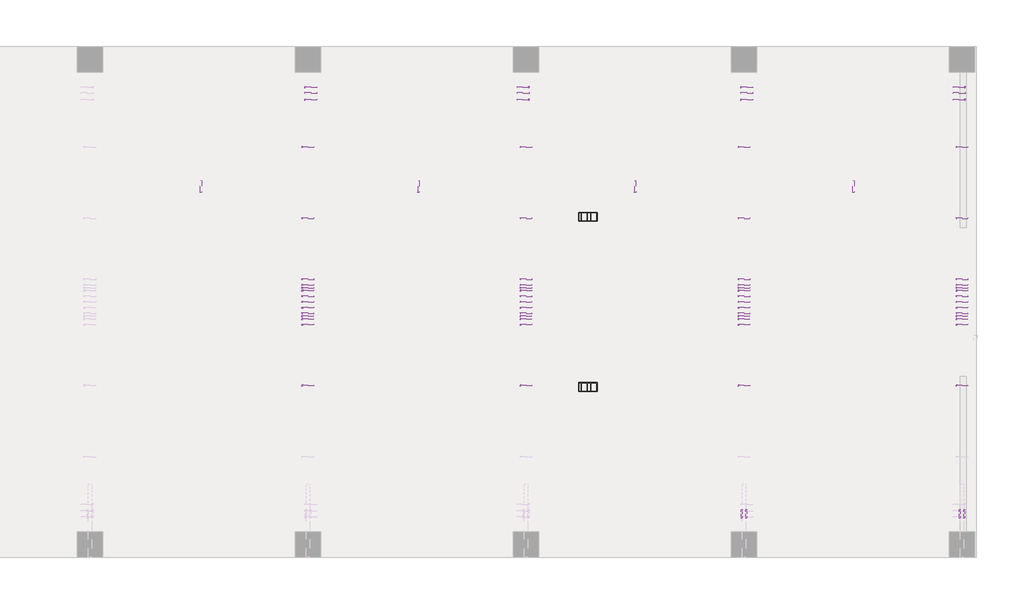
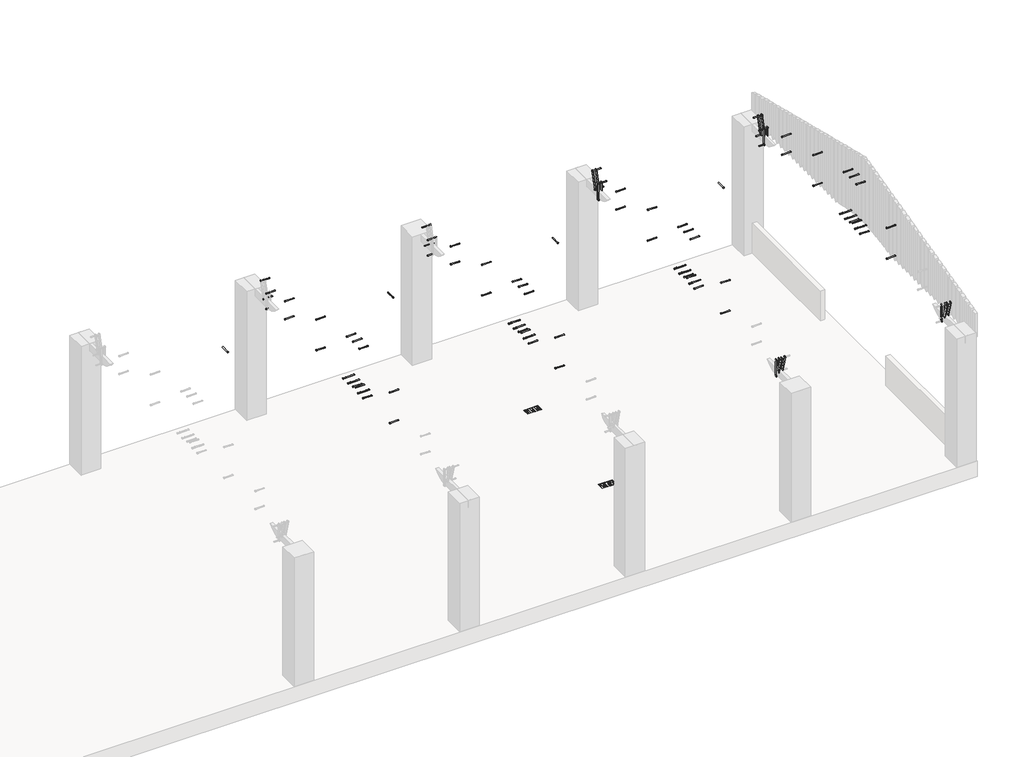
# One storey, part 3 of 3: 98 proxies.
"""IFC4 building model written with IfcOpenShell, lengths in millimetres."""

from ifc_helpers import new_model, si_unit, origin, place, context, project, spatial, transform, mapped, element, save
from components import generic_models_fae53533, generic_models_062e112d, generic_models_19469829, generic_models_2b8c0364, generic_models_28ea765f, generic_models_129ac0f9

model = new_model("IFC4")

# Units and contexts
model_context = context("Model", 3, world=origin())
ifc_project = project(units=[si_unit("LENGTHUNIT", "METRE", prefix="MILLI")], contexts=[model_context])

# Site, building, storey
site = spatial("IfcSite", under=ifc_project)
building = spatial("IfcBuilding", under=site)
storey = spatial("IfcBuildingStorey", under=building, Name="Nível 1", Elevation=0.0)

# Proxies
placement = place(None, origin())
generic_models_shape = generic_models_fae53533(model_context)
element("IfcBuildingElementProxy", 1, Name="grelha p chuva : grelha p chuva", ObjectType="grelha p chuva : grelha p chuva", at=placement, inside=storey, context=model_context, shape_type="MappedRepresentation", body=[
    mapped(generic_models_shape, transform((6643.4472467, 521.9571498, 0.0), x_axis=(0.0, 1.0, 0.0), y_axis=(-1.0, 0.0, 0.0), z_axis=(0.0, 0.0, 1.0))),
])
element("IfcBuildingElementProxy", 2, Name="grelha p chuva : grelha p chuva", ObjectType="grelha p chuva : grelha p chuva", at=placement, inside=storey, context=model_context, shape_type="MappedRepresentation", body=[
    mapped(generic_models_shape, transform((6643.4472467, 3375.2904832, 0.0), x_axis=(0.0, 1.0, 0.0), y_axis=(-1.0, 0.0, 0.0), z_axis=(0.0, 0.0, 1.0))),
])
generic_models_2_shape = generic_models_062e112d(model_context)
element("IfcBuildingElementProxy", 3, Name="Modelos genéricos 290 : Modelos genéricos 278", ObjectType="Modelos genéricos 290 : Modelos genéricos 278", at=placement, inside=storey, context=model_context, shape_type="MappedRepresentation", body=[
    mapped(generic_models_2_shape, transform((0.0, 0.0, 0.0), x_axis=(1.0, 0.0, 0.0), y_axis=(0.0, 1.0, 0.0), z_axis=(0.0, 0.0, 1.0))),
])
generic_models_3_shape = generic_models_19469829(model_context)
element("IfcBuildingElementProxy", 4, Name="Modelos genéricos 291 : Modelos genéricos 278", ObjectType="Modelos genéricos 291 : Modelos genéricos 278", at=placement, inside=storey, context=model_context, shape_type="MappedRepresentation", body=[
    mapped(generic_models_3_shape, transform((0.0, 0.0, 0.0), x_axis=(1.0, 0.0, 0.0), y_axis=(0.0, 1.0, 0.0), z_axis=(0.0, 0.0, 1.0))),
])
generic_models_4_shape = generic_models_2b8c0364(model_context)
element("IfcBuildingElementProxy", 5, Name="Modelos genéricos 292 : Modelos genéricos 278", ObjectType="Modelos genéricos 292 : Modelos genéricos 278", at=placement, inside=storey, context=model_context, shape_type="MappedRepresentation", body=[
    mapped(generic_models_4_shape, transform((0.0, 0.0, 0.0), x_axis=(1.0, 0.0, 0.0), y_axis=(0.0, 1.0, 0.0), z_axis=(0.0, 0.0, 1.0))),
])
generic_models_5_shape = generic_models_28ea765f(model_context)
element("IfcBuildingElementProxy", 6, Name="Modelos genéricos 293 : Modelos genéricos 278", ObjectType="Modelos genéricos 293 : Modelos genéricos 278", at=placement, inside=storey, context=model_context, shape_type="MappedRepresentation", body=[
    mapped(generic_models_5_shape, transform((0.0, 0.0, 0.0), x_axis=(1.0, 0.0, 0.0), y_axis=(0.0, 1.0, 0.0), z_axis=(0.0, 0.0, 1.0))),
])
generic_models_6_shape = generic_models_129ac0f9(model_context)
element("IfcBuildingElementProxy", 7, Name="parafuso : parafuso", ObjectType="parafuso : parafuso", at=placement, inside=storey, context=model_context, shape_type="MappedRepresentation", body=[
    mapped(generic_models_6_shape, transform((1863.4472467, 1948.6238165, 4129.7515316), x_axis=(0.0, 1.0, 0.0), y_axis=(0.0, 0.0, -1.0), z_axis=(-1.0, 0.0, 0.0))),
])
element("IfcBuildingElementProxy", 8, Name="parafuso : parafuso", ObjectType="parafuso : parafuso", at=placement, inside=storey, context=model_context, shape_type="MappedRepresentation", body=[
    mapped(generic_models_6_shape, transform((1863.4472467, 2183.6238165, 4104.7515316), x_axis=(0.0, 1.0, 0.0), y_axis=(0.0, 0.0, -1.0), z_axis=(-1.0, 0.0, 0.0))),
])
element("IfcBuildingElementProxy", 9, Name="parafuso : parafuso", ObjectType="parafuso : parafuso", at=placement, inside=storey, context=model_context, shape_type="MappedRepresentation", body=[
    mapped(generic_models_6_shape, transform((1863.4472467, 1713.6238165, 4104.7515316), x_axis=(0.0, 1.0, 0.0), y_axis=(0.0, 0.0, -1.0), z_axis=(-1.0, 0.0, 0.0))),
])
element("IfcBuildingElementProxy", 10, Name="parafuso : parafuso", ObjectType="parafuso : parafuso", at=placement, inside=storey, context=model_context, shape_type="MappedRepresentation", body=[
    mapped(generic_models_6_shape, transform((1863.4472467, 1948.6238165, 3080.0), x_axis=(0.0, 1.0, 0.0), y_axis=(0.0, 0.0, -1.0), z_axis=(-1.0, 0.0, 0.0))),
])
element("IfcBuildingElementProxy", 11, Name="parafuso : parafuso", ObjectType="parafuso : parafuso", at=placement, inside=storey, context=model_context, shape_type="MappedRepresentation", body=[
    mapped(generic_models_6_shape, transform((1863.4472467, 2043.6238165, 3120.0), x_axis=(0.0, 1.0, 0.0), y_axis=(0.0, 0.0, -1.0), z_axis=(-1.0, 0.0, 0.0))),
])
element("IfcBuildingElementProxy", 12, Name="parafuso : parafuso", ObjectType="parafuso : parafuso", at=placement, inside=storey, context=model_context, shape_type="MappedRepresentation", body=[
    mapped(generic_models_6_shape, transform((1863.4472467, 2138.6238165, 3040.0), x_axis=(0.0, 1.0, 0.0), y_axis=(0.0, 0.0, -1.0), z_axis=(-1.0, 0.0, 0.0))),
])
element("IfcBuildingElementProxy", 13, Name="parafuso : parafuso", ObjectType="parafuso : parafuso", at=placement, inside=storey, context=model_context, shape_type="MappedRepresentation", body=[
    mapped(generic_models_6_shape, transform((1863.4472467, 2233.6238165, 3120.0), x_axis=(0.0, 1.0, 0.0), y_axis=(0.0, 0.0, -1.0), z_axis=(-1.0, 0.0, 0.0))),
])
element("IfcBuildingElementProxy", 14, Name="parafuso : parafuso", ObjectType="parafuso : parafuso", at=placement, inside=storey, context=model_context, shape_type="MappedRepresentation", body=[
    mapped(generic_models_6_shape, transform((1863.4472467, 2328.6238165, 3040.0), x_axis=(0.0, 1.0, 0.0), y_axis=(0.0, 0.0, -1.0), z_axis=(-1.0, 0.0, 0.0))),
])
element("IfcBuildingElementProxy", 15, Name="parafuso : parafuso", ObjectType="parafuso : parafuso", at=placement, inside=storey, context=model_context, shape_type="MappedRepresentation", body=[
    mapped(generic_models_6_shape, transform((1863.4472467, 1853.6238165, 3120.0), x_axis=(0.0, 1.0, 0.0), y_axis=(0.0, 0.0, -1.0), z_axis=(-1.0, 0.0, 0.0))),
])
element("IfcBuildingElementProxy", 16, Name="parafuso : parafuso", ObjectType="parafuso : parafuso", at=placement, inside=storey, context=model_context, shape_type="MappedRepresentation", body=[
    mapped(generic_models_6_shape, transform((1863.4472467, 1758.6238165, 3040.0), x_axis=(0.0, 1.0, 0.0), y_axis=(0.0, 0.0, -1.0), z_axis=(-1.0, 0.0, 0.0))),
])
element("IfcBuildingElementProxy", 17, Name="parafuso : parafuso", ObjectType="parafuso : parafuso", at=placement, inside=storey, context=model_context, shape_type="MappedRepresentation", body=[
    mapped(generic_models_6_shape, transform((1863.4472467, 1663.6238165, 3120.0), x_axis=(0.0, 1.0, 0.0), y_axis=(0.0, 0.0, -1.0), z_axis=(-1.0, 0.0, 0.0))),
])
element("IfcBuildingElementProxy", 18, Name="parafuso : parafuso", ObjectType="parafuso : parafuso", at=placement, inside=storey, context=model_context, shape_type="MappedRepresentation", body=[
    mapped(generic_models_6_shape, transform((1863.4472467, 1568.6238165, 3040.0), x_axis=(0.0, 1.0, 0.0), y_axis=(0.0, 0.0, -1.0), z_axis=(-1.0, 0.0, 0.0))),
])
element("IfcBuildingElementProxy", 19, Name="parafuso : parafuso", ObjectType="parafuso : parafuso", at=placement, inside=storey, context=model_context, shape_type="MappedRepresentation", body=[
    mapped(generic_models_6_shape, transform((1863.4472467, 548.6238165, 3795.6961975), x_axis=(0.0, 1.0, 0.0), y_axis=(0.0, 0.0, -1.0), z_axis=(-1.0, 0.0, 0.0))),
])
element("IfcBuildingElementProxy", 20, Name="parafuso : parafuso", ObjectType="parafuso : parafuso", at=placement, inside=storey, context=model_context, shape_type="MappedRepresentation", body=[
    mapped(generic_models_6_shape, transform((1863.4472467, 548.6238165, 3080.0), x_axis=(0.0, 1.0, 0.0), y_axis=(0.0, 0.0, -1.0), z_axis=(-1.0, 0.0, 0.0))),
])
element("IfcBuildingElementProxy", 21, Name="parafuso : parafuso", ObjectType="parafuso : parafuso", at=placement, inside=storey, context=model_context, shape_type="MappedRepresentation", body=[
    mapped(generic_models_6_shape, transform((5513.4472467, 1948.6238165, 4129.7515316), x_axis=(0.0, 1.0, 0.0), y_axis=(0.0, 0.0, -1.0), z_axis=(-1.0, 0.0, 0.0))),
])
element("IfcBuildingElementProxy", 22, Name="parafuso : parafuso", ObjectType="parafuso : parafuso", at=placement, inside=storey, context=model_context, shape_type="MappedRepresentation", body=[
    mapped(generic_models_6_shape, transform((5513.4472467, 2183.6238165, 4104.7515316), x_axis=(0.0, 1.0, 0.0), y_axis=(0.0, 0.0, -1.0), z_axis=(-1.0, 0.0, 0.0))),
])
element("IfcBuildingElementProxy", 23, Name="parafuso : parafuso", ObjectType="parafuso : parafuso", at=placement, inside=storey, context=model_context, shape_type="MappedRepresentation", body=[
    mapped(generic_models_6_shape, transform((5513.4472467, 1713.6238165, 4104.7515316), x_axis=(0.0, 1.0, 0.0), y_axis=(0.0, 0.0, -1.0), z_axis=(-1.0, 0.0, 0.0))),
])
element("IfcBuildingElementProxy", 24, Name="parafuso : parafuso", ObjectType="parafuso : parafuso", at=placement, inside=storey, context=model_context, shape_type="MappedRepresentation", body=[
    mapped(generic_models_6_shape, transform((5513.4472467, 1948.6238165, 3080.0), x_axis=(0.0, 1.0, 0.0), y_axis=(0.0, 0.0, -1.0), z_axis=(-1.0, 0.0, 0.0))),
])
element("IfcBuildingElementProxy", 25, Name="parafuso : parafuso", ObjectType="parafuso : parafuso", at=placement, inside=storey, context=model_context, shape_type="MappedRepresentation", body=[
    mapped(generic_models_6_shape, transform((5513.4472467, 2043.6238165, 3120.0), x_axis=(0.0, 1.0, 0.0), y_axis=(0.0, 0.0, -1.0), z_axis=(-1.0, 0.0, 0.0))),
])
element("IfcBuildingElementProxy", 26, Name="parafuso : parafuso", ObjectType="parafuso : parafuso", at=placement, inside=storey, context=model_context, shape_type="MappedRepresentation", body=[
    mapped(generic_models_6_shape, transform((5513.4472467, 2138.6238165, 3040.0), x_axis=(0.0, 1.0, 0.0), y_axis=(0.0, 0.0, -1.0), z_axis=(-1.0, 0.0, 0.0))),
])
element("IfcBuildingElementProxy", 27, Name="parafuso : parafuso", ObjectType="parafuso : parafuso", at=placement, inside=storey, context=model_context, shape_type="MappedRepresentation", body=[
    mapped(generic_models_6_shape, transform((5513.4472467, 2233.6238165, 3120.0), x_axis=(0.0, 1.0, 0.0), y_axis=(0.0, 0.0, -1.0), z_axis=(-1.0, 0.0, 0.0))),
])
element("IfcBuildingElementProxy", 28, Name="parafuso : parafuso", ObjectType="parafuso : parafuso", at=placement, inside=storey, context=model_context, shape_type="MappedRepresentation", body=[
    mapped(generic_models_6_shape, transform((5513.4472467, 2328.6238165, 3040.0), x_axis=(0.0, 1.0, 0.0), y_axis=(0.0, 0.0, -1.0), z_axis=(-1.0, 0.0, 0.0))),
])
element("IfcBuildingElementProxy", 29, Name="parafuso : parafuso", ObjectType="parafuso : parafuso", at=placement, inside=storey, context=model_context, shape_type="MappedRepresentation", body=[
    mapped(generic_models_6_shape, transform((5513.4472467, 1853.6238165, 3120.0), x_axis=(0.0, 1.0, 0.0), y_axis=(0.0, 0.0, -1.0), z_axis=(-1.0, 0.0, 0.0))),
])
element("IfcBuildingElementProxy", 30, Name="parafuso : parafuso", ObjectType="parafuso : parafuso", at=placement, inside=storey, context=model_context, shape_type="MappedRepresentation", body=[
    mapped(generic_models_6_shape, transform((5513.4472467, 1758.6238165, 3040.0), x_axis=(0.0, 1.0, 0.0), y_axis=(0.0, 0.0, -1.0), z_axis=(-1.0, 0.0, 0.0))),
])
element("IfcBuildingElementProxy", 31, Name="parafuso : parafuso", ObjectType="parafuso : parafuso", at=placement, inside=storey, context=model_context, shape_type="MappedRepresentation", body=[
    mapped(generic_models_6_shape, transform((5513.4472467, 1663.6238165, 3120.0), x_axis=(0.0, 1.0, 0.0), y_axis=(0.0, 0.0, -1.0), z_axis=(-1.0, 0.0, 0.0))),
])
element("IfcBuildingElementProxy", 32, Name="parafuso : parafuso", ObjectType="parafuso : parafuso", at=placement, inside=storey, context=model_context, shape_type="MappedRepresentation", body=[
    mapped(generic_models_6_shape, transform((5513.4472467, 1568.6238165, 3040.0), x_axis=(0.0, 1.0, 0.0), y_axis=(0.0, 0.0, -1.0), z_axis=(-1.0, 0.0, 0.0))),
])
element("IfcBuildingElementProxy", 33, Name="parafuso : parafuso", ObjectType="parafuso : parafuso", at=placement, inside=storey, context=model_context, shape_type="MappedRepresentation", body=[
    mapped(generic_models_6_shape, transform((5513.4472467, 548.6238165, 3795.6961975), x_axis=(0.0, 1.0, 0.0), y_axis=(0.0, 0.0, -1.0), z_axis=(-1.0, 0.0, 0.0))),
])
element("IfcBuildingElementProxy", 34, Name="parafuso : parafuso", ObjectType="parafuso : parafuso", at=placement, inside=storey, context=model_context, shape_type="MappedRepresentation", body=[
    mapped(generic_models_6_shape, transform((5513.4472467, 548.6238165, 3080.0), x_axis=(0.0, 1.0, 0.0), y_axis=(0.0, 0.0, -1.0), z_axis=(-1.0, 0.0, 0.0))),
])
element("IfcBuildingElementProxy", 35, Name="parafuso : parafuso", ObjectType="parafuso : parafuso", at=placement, inside=storey, context=model_context, shape_type="MappedRepresentation", body=[
    mapped(generic_models_6_shape, transform((9163.4472467, 1948.6238165, 4129.7515316), x_axis=(0.0, 1.0, 0.0), y_axis=(0.0, 0.0, -1.0), z_axis=(-1.0, 0.0, 0.0))),
])
element("IfcBuildingElementProxy", 36, Name="parafuso : parafuso", ObjectType="parafuso : parafuso", at=placement, inside=storey, context=model_context, shape_type="MappedRepresentation", body=[
    mapped(generic_models_6_shape, transform((9163.4472467, 2183.6238165, 4104.7515316), x_axis=(0.0, 1.0, 0.0), y_axis=(0.0, 0.0, -1.0), z_axis=(-1.0, 0.0, 0.0))),
])
element("IfcBuildingElementProxy", 37, Name="parafuso : parafuso", ObjectType="parafuso : parafuso", at=placement, inside=storey, context=model_context, shape_type="MappedRepresentation", body=[
    mapped(generic_models_6_shape, transform((9163.4472467, 1713.6238165, 4104.7515316), x_axis=(0.0, 1.0, 0.0), y_axis=(0.0, 0.0, -1.0), z_axis=(-1.0, 0.0, 0.0))),
])
element("IfcBuildingElementProxy", 38, Name="parafuso : parafuso", ObjectType="parafuso : parafuso", at=placement, inside=storey, context=model_context, shape_type="MappedRepresentation", body=[
    mapped(generic_models_6_shape, transform((9163.4472467, 1948.6238165, 3080.0), x_axis=(0.0, 1.0, 0.0), y_axis=(0.0, 0.0, -1.0), z_axis=(-1.0, 0.0, 0.0))),
])
element("IfcBuildingElementProxy", 39, Name="parafuso : parafuso", ObjectType="parafuso : parafuso", at=placement, inside=storey, context=model_context, shape_type="MappedRepresentation", body=[
    mapped(generic_models_6_shape, transform((9163.4472467, 2043.6238165, 3120.0), x_axis=(0.0, 1.0, 0.0), y_axis=(0.0, 0.0, -1.0), z_axis=(-1.0, 0.0, 0.0))),
])
element("IfcBuildingElementProxy", 40, Name="parafuso : parafuso", ObjectType="parafuso : parafuso", at=placement, inside=storey, context=model_context, shape_type="MappedRepresentation", body=[
    mapped(generic_models_6_shape, transform((9163.4472467, 2138.6238165, 3040.0), x_axis=(0.0, 1.0, 0.0), y_axis=(0.0, 0.0, -1.0), z_axis=(-1.0, 0.0, 0.0))),
])
element("IfcBuildingElementProxy", 41, Name="parafuso : parafuso", ObjectType="parafuso : parafuso", at=placement, inside=storey, context=model_context, shape_type="MappedRepresentation", body=[
    mapped(generic_models_6_shape, transform((9163.4472467, 2233.6238165, 3120.0), x_axis=(0.0, 1.0, 0.0), y_axis=(0.0, 0.0, -1.0), z_axis=(-1.0, 0.0, 0.0))),
])
element("IfcBuildingElementProxy", 42, Name="parafuso : parafuso", ObjectType="parafuso : parafuso", at=placement, inside=storey, context=model_context, shape_type="MappedRepresentation", body=[
    mapped(generic_models_6_shape, transform((9163.4472467, 2328.6238165, 3040.0), x_axis=(0.0, 1.0, 0.0), y_axis=(0.0, 0.0, -1.0), z_axis=(-1.0, 0.0, 0.0))),
])
element("IfcBuildingElementProxy", 43, Name="parafuso : parafuso", ObjectType="parafuso : parafuso", at=placement, inside=storey, context=model_context, shape_type="MappedRepresentation", body=[
    mapped(generic_models_6_shape, transform((9163.4472467, 1853.6238165, 3120.0), x_axis=(0.0, 1.0, 0.0), y_axis=(0.0, 0.0, -1.0), z_axis=(-1.0, 0.0, 0.0))),
])
element("IfcBuildingElementProxy", 44, Name="parafuso : parafuso", ObjectType="parafuso : parafuso", at=placement, inside=storey, context=model_context, shape_type="MappedRepresentation", body=[
    mapped(generic_models_6_shape, transform((9163.4472467, 1758.6238165, 3040.0), x_axis=(0.0, 1.0, 0.0), y_axis=(0.0, 0.0, -1.0), z_axis=(-1.0, 0.0, 0.0))),
])
element("IfcBuildingElementProxy", 45, Name="parafuso : parafuso", ObjectType="parafuso : parafuso", at=placement, inside=storey, context=model_context, shape_type="MappedRepresentation", body=[
    mapped(generic_models_6_shape, transform((9163.4472467, 1663.6238165, 3120.0), x_axis=(0.0, 1.0, 0.0), y_axis=(0.0, 0.0, -1.0), z_axis=(-1.0, 0.0, 0.0))),
])
element("IfcBuildingElementProxy", 46, Name="parafuso : parafuso", ObjectType="parafuso : parafuso", at=placement, inside=storey, context=model_context, shape_type="MappedRepresentation", body=[
    mapped(generic_models_6_shape, transform((9163.4472467, 1568.6238165, 3040.0), x_axis=(0.0, 1.0, 0.0), y_axis=(0.0, 0.0, -1.0), z_axis=(-1.0, 0.0, 0.0))),
])
element("IfcBuildingElementProxy", 47, Name="parafuso : parafuso", ObjectType="parafuso : parafuso", at=placement, inside=storey, context=model_context, shape_type="MappedRepresentation", body=[
    mapped(generic_models_6_shape, transform((9163.4472467, 548.6238165, 3795.6961975), x_axis=(0.0, 1.0, 0.0), y_axis=(0.0, 0.0, -1.0), z_axis=(-1.0, 0.0, 0.0))),
])
element("IfcBuildingElementProxy", 48, Name="parafuso : parafuso", ObjectType="parafuso : parafuso", at=placement, inside=storey, context=model_context, shape_type="MappedRepresentation", body=[
    mapped(generic_models_6_shape, transform((9163.4472467, 548.6238165, 3080.0), x_axis=(0.0, 1.0, 0.0), y_axis=(0.0, 0.0, -1.0), z_axis=(-1.0, 0.0, 0.0))),
])
element("IfcBuildingElementProxy", 49, Name="parafuso : parafuso", ObjectType="parafuso : parafuso", at=placement, inside=storey, context=model_context, shape_type="MappedRepresentation", body=[
    mapped(generic_models_6_shape, transform((12813.4472467, 1948.6238165, 4129.7515316), x_axis=(0.0, 1.0, 0.0), y_axis=(0.0, 0.0, -1.0), z_axis=(-1.0, 0.0, 0.0))),
])
element("IfcBuildingElementProxy", 50, Name="parafuso : parafuso", ObjectType="parafuso : parafuso", at=placement, inside=storey, context=model_context, shape_type="MappedRepresentation", body=[
    mapped(generic_models_6_shape, transform((12813.4472467, 2183.6238165, 4104.7515316), x_axis=(0.0, 1.0, 0.0), y_axis=(0.0, 0.0, -1.0), z_axis=(-1.0, 0.0, 0.0))),
])
element("IfcBuildingElementProxy", 51, Name="parafuso : parafuso", ObjectType="parafuso : parafuso", at=placement, inside=storey, context=model_context, shape_type="MappedRepresentation", body=[
    mapped(generic_models_6_shape, transform((12813.4472467, 1713.6238165, 4104.7515316), x_axis=(0.0, 1.0, 0.0), y_axis=(0.0, 0.0, -1.0), z_axis=(-1.0, 0.0, 0.0))),
])
element("IfcBuildingElementProxy", 52, Name="parafuso : parafuso", ObjectType="parafuso : parafuso", at=placement, inside=storey, context=model_context, shape_type="MappedRepresentation", body=[
    mapped(generic_models_6_shape, transform((12813.4472467, 1948.6238165, 3080.0), x_axis=(0.0, 1.0, 0.0), y_axis=(0.0, 0.0, -1.0), z_axis=(-1.0, 0.0, 0.0))),
])
element("IfcBuildingElementProxy", 53, Name="parafuso : parafuso", ObjectType="parafuso : parafuso", at=placement, inside=storey, context=model_context, shape_type="MappedRepresentation", body=[
    mapped(generic_models_6_shape, transform((12813.4472467, 2043.6238165, 3120.0), x_axis=(0.0, 1.0, 0.0), y_axis=(0.0, 0.0, -1.0), z_axis=(-1.0, 0.0, 0.0))),
])
element("IfcBuildingElementProxy", 54, Name="parafuso : parafuso", ObjectType="parafuso : parafuso", at=placement, inside=storey, context=model_context, shape_type="MappedRepresentation", body=[
    mapped(generic_models_6_shape, transform((12813.4472467, 2138.6238165, 3040.0), x_axis=(0.0, 1.0, 0.0), y_axis=(0.0, 0.0, -1.0), z_axis=(-1.0, 0.0, 0.0))),
])
element("IfcBuildingElementProxy", 55, Name="parafuso : parafuso", ObjectType="parafuso : parafuso", at=placement, inside=storey, context=model_context, shape_type="MappedRepresentation", body=[
    mapped(generic_models_6_shape, transform((12813.4472467, 2233.6238165, 3120.0), x_axis=(0.0, 1.0, 0.0), y_axis=(0.0, 0.0, -1.0), z_axis=(-1.0, 0.0, 0.0))),
])
element("IfcBuildingElementProxy", 56, Name="parafuso : parafuso", ObjectType="parafuso : parafuso", at=placement, inside=storey, context=model_context, shape_type="MappedRepresentation", body=[
    mapped(generic_models_6_shape, transform((12813.4472467, 2328.6238165, 3040.0), x_axis=(0.0, 1.0, 0.0), y_axis=(0.0, 0.0, -1.0), z_axis=(-1.0, 0.0, 0.0))),
])
element("IfcBuildingElementProxy", 57, Name="parafuso : parafuso", ObjectType="parafuso : parafuso", at=placement, inside=storey, context=model_context, shape_type="MappedRepresentation", body=[
    mapped(generic_models_6_shape, transform((12813.4472467, 1853.6238165, 3120.0), x_axis=(0.0, 1.0, 0.0), y_axis=(0.0, 0.0, -1.0), z_axis=(-1.0, 0.0, 0.0))),
])
element("IfcBuildingElementProxy", 58, Name="parafuso : parafuso", ObjectType="parafuso : parafuso", at=placement, inside=storey, context=model_context, shape_type="MappedRepresentation", body=[
    mapped(generic_models_6_shape, transform((12813.4472467, 1758.6238165, 3040.0), x_axis=(0.0, 1.0, 0.0), y_axis=(0.0, 0.0, -1.0), z_axis=(-1.0, 0.0, 0.0))),
])
element("IfcBuildingElementProxy", 59, Name="parafuso : parafuso", ObjectType="parafuso : parafuso", at=placement, inside=storey, context=model_context, shape_type="MappedRepresentation", body=[
    mapped(generic_models_6_shape, transform((12813.4472467, 1663.6238165, 3120.0), x_axis=(0.0, 1.0, 0.0), y_axis=(0.0, 0.0, -1.0), z_axis=(-1.0, 0.0, 0.0))),
])
element("IfcBuildingElementProxy", 60, Name="parafuso : parafuso", ObjectType="parafuso : parafuso", at=placement, inside=storey, context=model_context, shape_type="MappedRepresentation", body=[
    mapped(generic_models_6_shape, transform((12813.4472467, 1568.6238165, 3040.0), x_axis=(0.0, 1.0, 0.0), y_axis=(0.0, 0.0, -1.0), z_axis=(-1.0, 0.0, 0.0))),
])
element("IfcBuildingElementProxy", 61, Name="parafuso : parafuso", ObjectType="parafuso : parafuso", at=placement, inside=storey, context=model_context, shape_type="MappedRepresentation", body=[
    mapped(generic_models_6_shape, transform((12813.4472467, 548.6238165, 3795.6961975), x_axis=(0.0, 1.0, 0.0), y_axis=(0.0, 0.0, -1.0), z_axis=(-1.0, 0.0, 0.0))),
])
element("IfcBuildingElementProxy", 62, Name="parafuso : parafuso", ObjectType="parafuso : parafuso", at=placement, inside=storey, context=model_context, shape_type="MappedRepresentation", body=[
    mapped(generic_models_6_shape, transform((12813.4472467, 548.6238165, 3080.0), x_axis=(0.0, 1.0, 0.0), y_axis=(0.0, 0.0, -1.0), z_axis=(-1.0, 0.0, 0.0))),
])
element("IfcBuildingElementProxy", 63, Name="parafuso : parafuso", ObjectType="parafuso : parafuso", at=placement, inside=storey, context=model_context, shape_type="MappedRepresentation", body=[
    mapped(generic_models_6_shape, transform((1910.7580929, 5338.6238165, 2820.0), x_axis=(0.0, 1.0, 0.0), y_axis=(0.0, 0.0, -1.0), z_axis=(-1.0, 0.0, 0.0))),
])
element("IfcBuildingElementProxy", 64, Name="parafuso : parafuso", ObjectType="parafuso : parafuso", at=placement, inside=storey, context=model_context, shape_type="MappedRepresentation", body=[
    mapped(generic_models_6_shape, transform((1910.7580929, 5338.6238165, 3180.0), x_axis=(0.0, 1.0, 0.0), y_axis=(0.0, 0.0, -1.0), z_axis=(-1.0, 0.0, 0.0))),
])
element("IfcBuildingElementProxy", 65, Name="parafuso : parafuso", ObjectType="parafuso : parafuso", at=placement, inside=storey, context=model_context, shape_type="MappedRepresentation", body=[
    mapped(generic_models_6_shape, transform((1910.7580929, 5547.636896, 3347.7358864), x_axis=(0.0, 1.0, 0.0), y_axis=(0.0, 0.0, -1.0), z_axis=(-1.0, 0.0, 0.0))),
])
element("IfcBuildingElementProxy", 66, Name="parafuso : parafuso", ObjectType="parafuso : parafuso", at=placement, inside=storey, context=model_context, shape_type="MappedRepresentation", body=[
    mapped(generic_models_6_shape, transform((1910.7580929, 5449.2856589, 2980.6840724), x_axis=(0.0, 1.0, 0.0), y_axis=(0.0, 0.0, -1.0), z_axis=(-1.0, 0.0, 0.0))),
])
element("IfcBuildingElementProxy", 67, Name="parafuso : parafuso", ObjectType="parafuso : parafuso", at=placement, inside=storey, context=model_context, shape_type="MappedRepresentation", body=[
    mapped(generic_models_6_shape, transform((9210.7580929, 5338.6238165, 2820.0), x_axis=(0.0, 1.0, 0.0), y_axis=(0.0, 0.0, -1.0), z_axis=(-1.0, 0.0, 0.0))),
])
element("IfcBuildingElementProxy", 68, Name="parafuso : parafuso", ObjectType="parafuso : parafuso", at=placement, inside=storey, context=model_context, shape_type="MappedRepresentation", body=[
    mapped(generic_models_6_shape, transform((9210.7580929, 5338.6238165, 3180.0), x_axis=(0.0, 1.0, 0.0), y_axis=(0.0, 0.0, -1.0), z_axis=(-1.0, 0.0, 0.0))),
])
element("IfcBuildingElementProxy", 69, Name="parafuso : parafuso", ObjectType="parafuso : parafuso", at=placement, inside=storey, context=model_context, shape_type="MappedRepresentation", body=[
    mapped(generic_models_6_shape, transform((9210.7580929, 5547.636896, 3347.7358864), x_axis=(0.0, 1.0, 0.0), y_axis=(0.0, 0.0, -1.0), z_axis=(-1.0, 0.0, 0.0))),
])
element("IfcBuildingElementProxy", 70, Name="parafuso : parafuso", ObjectType="parafuso : parafuso", at=placement, inside=storey, context=model_context, shape_type="MappedRepresentation", body=[
    mapped(generic_models_6_shape, transform((9210.7580929, 5449.2856589, 2980.6840724), x_axis=(0.0, 1.0, 0.0), y_axis=(0.0, 0.0, -1.0), z_axis=(-1.0, 0.0, 0.0))),
])
element("IfcBuildingElementProxy", 71, Name="parafuso : parafuso", ObjectType="parafuso : parafuso", at=placement, inside=storey, context=model_context, shape_type="MappedRepresentation", body=[
    mapped(generic_models_6_shape, transform((161.4165088, 3793.6238165, 3362.6833564), x_axis=(-0.9863131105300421, 0.0, -0.16488313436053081), y_axis=(0.16488313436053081, 0.0, -0.9863131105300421), z_axis=(0.0, -1.0, 0.0))),
])
element("IfcBuildingElementProxy", 72, Name="parafuso : parafuso", ObjectType="parafuso : parafuso", at=placement, inside=storey, context=model_context, shape_type="MappedRepresentation", body=[
    mapped(generic_models_6_shape, transform((3805.513584, 3793.6238165, 3362.6833564), x_axis=(-0.9863131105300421, 0.0, -0.16488313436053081), y_axis=(0.16488313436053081, 0.0, -0.9863131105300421), z_axis=(0.0, -1.0, 0.0))),
])
element("IfcBuildingElementProxy", 73, Name="parafuso : parafuso", ObjectType="parafuso : parafuso", at=placement, inside=storey, context=model_context, shape_type="MappedRepresentation", body=[
    mapped(generic_models_6_shape, transform((7432.1045495, 3793.6238165, 3363.0972868), x_axis=(-0.9863131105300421, 0.0, -0.16488313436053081), y_axis=(0.16488313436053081, 0.0, -0.9863131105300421), z_axis=(0.0, -1.0, 0.0))),
])
element("IfcBuildingElementProxy", 74, Name="parafuso : parafuso", ObjectType="parafuso : parafuso", at=placement, inside=storey, context=model_context, shape_type="MappedRepresentation", body=[
    mapped(generic_models_6_shape, transform((11087.5421414, 3793.6238165, 3368.4106209), x_axis=(-0.9863131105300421, 0.0, -0.16488313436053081), y_axis=(0.16488313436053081, 0.0, -0.9863131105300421), z_axis=(0.0, -1.0, 0.0))),
])
element("IfcBuildingElementProxy", 75, Name="parafuso : parafuso", ObjectType="parafuso : parafuso", at=placement, inside=storey, context=model_context, shape_type="MappedRepresentation", body=[
    mapped(generic_models_6_shape, transform((1863.4472467, 3348.6238165, 3795.6961975), x_axis=(0.0, -1.0, 0.0), y_axis=(0.0, 0.0, 1.0), z_axis=(-1.0, 0.0, 0.0))),
])
element("IfcBuildingElementProxy", 76, Name="parafuso : parafuso", ObjectType="parafuso : parafuso", at=placement, inside=storey, context=model_context, shape_type="MappedRepresentation", body=[
    mapped(generic_models_6_shape, transform((1863.4472467, 4543.6238165, 3497.7492341), x_axis=(0.0, -1.0, 0.0), y_axis=(0.0, 0.0, 1.0), z_axis=(-1.0, 0.0, 0.0))),
])
element("IfcBuildingElementProxy", 77, Name="parafuso : parafuso", ObjectType="parafuso : parafuso", at=placement, inside=storey, context=model_context, shape_type="MappedRepresentation", body=[
    mapped(generic_models_6_shape, transform((1863.4472467, 4543.6238165, 3080.0), x_axis=(0.0, -1.0, 0.0), y_axis=(0.0, 0.0, 1.0), z_axis=(-1.0, 0.0, 0.0))),
])
element("IfcBuildingElementProxy", 78, Name="parafuso : parafuso", ObjectType="parafuso : parafuso", at=placement, inside=storey, context=model_context, shape_type="MappedRepresentation", body=[
    mapped(generic_models_6_shape, transform((1863.4472467, 3348.6238165, 3080.0), x_axis=(0.0, -1.0, 0.0), y_axis=(0.0, 0.0, 1.0), z_axis=(-1.0, 0.0, 0.0))),
])
element("IfcBuildingElementProxy", 79, Name="parafuso : parafuso", ObjectType="parafuso : parafuso", at=placement, inside=storey, context=model_context, shape_type="MappedRepresentation", body=[
    mapped(generic_models_6_shape, transform((5513.4472467, 3348.6238165, 3795.6961975), x_axis=(0.0, -1.0, 0.0), y_axis=(0.0, 0.0, 1.0), z_axis=(-1.0, 0.0, 0.0))),
])
element("IfcBuildingElementProxy", 80, Name="parafuso : parafuso", ObjectType="parafuso : parafuso", at=placement, inside=storey, context=model_context, shape_type="MappedRepresentation", body=[
    mapped(generic_models_6_shape, transform((5513.4472467, 4543.6238165, 3497.7492341), x_axis=(0.0, -1.0, 0.0), y_axis=(0.0, 0.0, 1.0), z_axis=(-1.0, 0.0, 0.0))),
])
element("IfcBuildingElementProxy", 81, Name="parafuso : parafuso", ObjectType="parafuso : parafuso", at=placement, inside=storey, context=model_context, shape_type="MappedRepresentation", body=[
    mapped(generic_models_6_shape, transform((5513.4472467, 4543.6238165, 3080.0), x_axis=(0.0, -1.0, 0.0), y_axis=(0.0, 0.0, 1.0), z_axis=(-1.0, 0.0, 0.0))),
])
element("IfcBuildingElementProxy", 82, Name="parafuso : parafuso", ObjectType="parafuso : parafuso", at=placement, inside=storey, context=model_context, shape_type="MappedRepresentation", body=[
    mapped(generic_models_6_shape, transform((5513.4472467, 3348.6238165, 3080.0), x_axis=(0.0, -1.0, 0.0), y_axis=(0.0, 0.0, 1.0), z_axis=(-1.0, 0.0, 0.0))),
])
element("IfcBuildingElementProxy", 83, Name="parafuso : parafuso", ObjectType="parafuso : parafuso", at=placement, inside=storey, context=model_context, shape_type="MappedRepresentation", body=[
    mapped(generic_models_6_shape, transform((9163.4472467, 3348.6238165, 3795.6961975), x_axis=(0.0, -1.0, 0.0), y_axis=(0.0, 0.0, 1.0), z_axis=(-1.0, 0.0, 0.0))),
])
element("IfcBuildingElementProxy", 84, Name="parafuso : parafuso", ObjectType="parafuso : parafuso", at=placement, inside=storey, context=model_context, shape_type="MappedRepresentation", body=[
    mapped(generic_models_6_shape, transform((9163.4472467, 4543.6238165, 3497.7492341), x_axis=(0.0, -1.0, 0.0), y_axis=(0.0, 0.0, 1.0), z_axis=(-1.0, 0.0, 0.0))),
])
element("IfcBuildingElementProxy", 85, Name="parafuso : parafuso", ObjectType="parafuso : parafuso", at=placement, inside=storey, context=model_context, shape_type="MappedRepresentation", body=[
    mapped(generic_models_6_shape, transform((9163.4472467, 4543.6238165, 3080.0), x_axis=(0.0, -1.0, 0.0), y_axis=(0.0, 0.0, 1.0), z_axis=(-1.0, 0.0, 0.0))),
])
element("IfcBuildingElementProxy", 86, Name="parafuso : parafuso", ObjectType="parafuso : parafuso", at=placement, inside=storey, context=model_context, shape_type="MappedRepresentation", body=[
    mapped(generic_models_6_shape, transform((9163.4472467, 3348.6238165, 3080.0), x_axis=(0.0, -1.0, 0.0), y_axis=(0.0, 0.0, 1.0), z_axis=(-1.0, 0.0, 0.0))),
])
element("IfcBuildingElementProxy", 87, Name="parafuso : parafuso", ObjectType="parafuso : parafuso", at=placement, inside=storey, context=model_context, shape_type="MappedRepresentation", body=[
    mapped(generic_models_6_shape, transform((12813.4472467, 3348.6238165, 3795.6961975), x_axis=(0.0, -1.0, 0.0), y_axis=(0.0, 0.0, 1.0), z_axis=(-1.0, 0.0, 0.0))),
])
element("IfcBuildingElementProxy", 88, Name="parafuso : parafuso", ObjectType="parafuso : parafuso", at=placement, inside=storey, context=model_context, shape_type="MappedRepresentation", body=[
    mapped(generic_models_6_shape, transform((12813.4472467, 4543.6238165, 3497.7492341), x_axis=(0.0, -1.0, 0.0), y_axis=(0.0, 0.0, 1.0), z_axis=(-1.0, 0.0, 0.0))),
])
element("IfcBuildingElementProxy", 89, Name="parafuso : parafuso", ObjectType="parafuso : parafuso", at=placement, inside=storey, context=model_context, shape_type="MappedRepresentation", body=[
    mapped(generic_models_6_shape, transform((12813.4472467, 4543.6238165, 3080.0), x_axis=(0.0, -1.0, 0.0), y_axis=(0.0, 0.0, 1.0), z_axis=(-1.0, 0.0, 0.0))),
])
element("IfcBuildingElementProxy", 90, Name="parafuso : parafuso", ObjectType="parafuso : parafuso", at=placement, inside=storey, context=model_context, shape_type="MappedRepresentation", body=[
    mapped(generic_models_6_shape, transform((12813.4472467, 3348.6238165, 3080.0), x_axis=(0.0, -1.0, 0.0), y_axis=(0.0, 0.0, 1.0), z_axis=(-1.0, 0.0, 0.0))),
])
element("IfcBuildingElementProxy", 91, Name="parafuso : parafuso", ObjectType="parafuso : parafuso", at=placement, inside=storey, context=model_context, shape_type="MappedRepresentation", body=[
    mapped(generic_models_6_shape, transform((5646.1364005, 5338.6238165, 2820.0), x_axis=(0.0, 1.0, 0.0), y_axis=(0.0, 0.0, 1.0), z_axis=(1.0, 0.0, 0.0))),
])
element("IfcBuildingElementProxy", 92, Name="parafuso : parafuso", ObjectType="parafuso : parafuso", at=placement, inside=storey, context=model_context, shape_type="MappedRepresentation", body=[
    mapped(generic_models_6_shape, transform((5646.1364005, 5338.6238165, 3180.0), x_axis=(0.0, 1.0, 0.0), y_axis=(0.0, 0.0, 1.0), z_axis=(1.0, 0.0, 0.0))),
])
element("IfcBuildingElementProxy", 93, Name="parafuso : parafuso", ObjectType="parafuso : parafuso", at=placement, inside=storey, context=model_context, shape_type="MappedRepresentation", body=[
    mapped(generic_models_6_shape, transform((5646.1364005, 5547.636896, 3347.7358864), x_axis=(0.0, 1.0, 0.0), y_axis=(0.0, 0.0, 1.0), z_axis=(1.0, 0.0, 0.0))),
])
element("IfcBuildingElementProxy", 94, Name="parafuso : parafuso", ObjectType="parafuso : parafuso", at=placement, inside=storey, context=model_context, shape_type="MappedRepresentation", body=[
    mapped(generic_models_6_shape, transform((5646.1364005, 5449.2856589, 2980.6840724), x_axis=(0.0, 1.0, 0.0), y_axis=(0.0, 0.0, 1.0), z_axis=(1.0, 0.0, 0.0))),
])
element("IfcBuildingElementProxy", 95, Name="parafuso : parafuso", ObjectType="parafuso : parafuso", at=placement, inside=storey, context=model_context, shape_type="MappedRepresentation", body=[
    mapped(generic_models_6_shape, transform((12946.1364005, 5338.6238165, 2820.0), x_axis=(0.0, 1.0, 0.0), y_axis=(0.0, 0.0, 1.0), z_axis=(1.0, 0.0, 0.0))),
])
element("IfcBuildingElementProxy", 96, Name="parafuso : parafuso", ObjectType="parafuso : parafuso", at=placement, inside=storey, context=model_context, shape_type="MappedRepresentation", body=[
    mapped(generic_models_6_shape, transform((12946.1364005, 5338.6238165, 3180.0), x_axis=(0.0, 1.0, 0.0), y_axis=(0.0, 0.0, 1.0), z_axis=(1.0, 0.0, 0.0))),
])
element("IfcBuildingElementProxy", 97, Name="parafuso : parafuso", ObjectType="parafuso : parafuso", at=placement, inside=storey, context=model_context, shape_type="MappedRepresentation", body=[
    mapped(generic_models_6_shape, transform((12946.1364005, 5547.636896, 3347.7358864), x_axis=(0.0, 1.0, 0.0), y_axis=(0.0, 0.0, 1.0), z_axis=(1.0, 0.0, 0.0))),
])
element("IfcBuildingElementProxy", 98, Name="parafuso : parafuso", ObjectType="parafuso : parafuso", at=placement, inside=storey, context=model_context, shape_type="MappedRepresentation", body=[
    mapped(generic_models_6_shape, transform((12946.1364005, 5449.2856589, 2980.6840724), x_axis=(0.0, 1.0, 0.0), y_axis=(0.0, 0.0, 1.0), z_axis=(1.0, 0.0, 0.0))),
])

save(model, "model.ifc")
